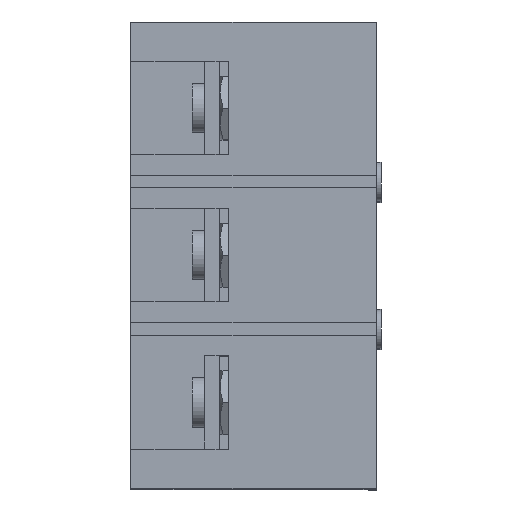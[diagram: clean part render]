
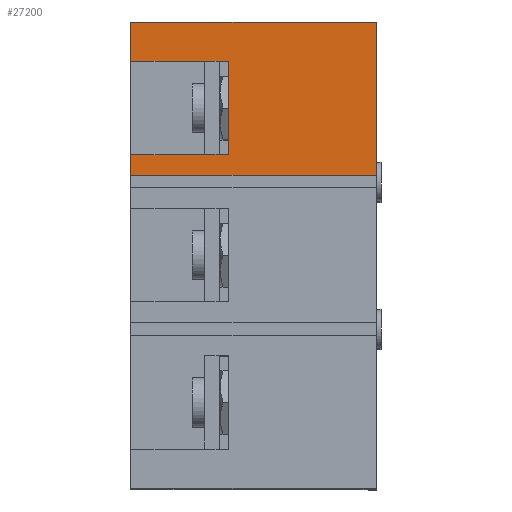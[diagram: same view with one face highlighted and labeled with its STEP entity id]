
A CAD part, top view. The second image highlights one B-rep face of the part: STEP entity #27200.
In plain terms, the highlighted planar face has unit normal (0, 0, 1) as drawn and (0, -1, 0) by its records, which use the part's own axes.
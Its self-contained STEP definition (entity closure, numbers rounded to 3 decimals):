
#92 = VECTOR ( 'NONE', #15163, 1000. ) ;
#266 = VECTOR ( 'NONE', #38924, 1000. ) ;
#995 = EDGE_CURVE ( 'NONE', #10540, #19139, #19599, .T. ) ;
#1585 = VERTEX_POINT ( 'NONE', #12079 ) ;
#2074 = ORIENTED_EDGE ( 'NONE', *, *, #2804, .F. ) ;
#2645 = LINE ( 'NONE', #22727, #17442 ) ;
#2802 = EDGE_CURVE ( 'NONE', #42319, #20415, #42419, .T. ) ;
#2804 = EDGE_CURVE ( 'NONE', #10540, #39796, #35711, .T. ) ;
#4287 = AXIS2_PLACEMENT_3D ( 'NONE', #34672, #7423, #24836 ) ;
#4922 = DIRECTION ( 'NONE',  ( -1., 0., 0. ) ) ;
#5338 = CARTESIAN_POINT ( 'NONE',  ( -39.501, -91.75, -50. ) ) ;
#5940 = DIRECTION ( 'NONE',  ( 0., 0., -1. ) ) ;
#6026 = EDGE_CURVE ( 'NONE', #18863, #42319, #32932, .T. ) ;
#6192 = VECTOR ( 'NONE', #5940, 1000. ) ;
#6803 = EDGE_CURVE ( 'NONE', #36881, #28781, #15283, .T. ) ;
#6829 = CARTESIAN_POINT ( 'NONE',  ( -20.5, -91.75, -32. ) ) ;
#6941 = CARTESIAN_POINT ( 'NONE',  ( 47.5, -91.75, -35. ) ) ;
#7423 = DIRECTION ( 'NONE',  ( 0., 1., 0. ) ) ;
#7591 = VERTEX_POINT ( 'NONE', #17221 ) ;
#7717 = EDGE_CURVE ( 'NONE', #19139, #28781, #41930, .T. ) ;
#8204 = CARTESIAN_POINT ( 'NONE',  ( -16.25, -91.75, 0. ) ) ;
#8284 = VERTEX_POINT ( 'NONE', #41153 ) ;
#8330 = DIRECTION ( 'NONE',  ( -1., 0., 0. ) ) ;
#8523 = CARTESIAN_POINT ( 'NONE',  ( -16.25, -91.75, 0. ) ) ;
#8834 = CARTESIAN_POINT ( 'NONE',  ( -39.5, -91.75, -30. ) ) ;
#9145 = VECTOR ( 'NONE', #26359, 1000. ) ;
#10148 = ORIENTED_EDGE ( 'NONE', *, *, #6803, .F. ) ;
#10274 = VECTOR ( 'NONE', #18404, 1000. ) ;
#10540 = VERTEX_POINT ( 'NONE', #32281 ) ;
#11152 = CARTESIAN_POINT ( 'NONE',  ( -16.25, -91.75, -50. ) ) ;
#11345 = CARTESIAN_POINT ( 'NONE',  ( 47.5, -91.75, -32. ) ) ;
#12046 = CARTESIAN_POINT ( 'NONE',  ( -20.5, -91.75, -30. ) ) ;
#12079 = CARTESIAN_POINT ( 'NONE',  ( -39.5, -91.75, -32. ) ) ;
#12462 = ORIENTED_EDGE ( 'NONE', *, *, #6026, .F. ) ;
#13062 = VECTOR ( 'NONE', #26456, 1000. ) ;
#13806 = CARTESIAN_POINT ( 'NONE',  ( 47.5, -91.75, -32. ) ) ;
#14529 = DIRECTION ( 'NONE',  ( 0., 0., 1. ) ) ;
#14694 = EDGE_CURVE ( 'NONE', #24754, #23552, #31574, .T. ) ;
#14794 = EDGE_CURVE ( 'NONE', #22113, #23552, #40176, .T. ) ;
#14945 = CARTESIAN_POINT ( 'NONE',  ( -39.5, -91.75, -35. ) ) ;
#15163 = DIRECTION ( 'NONE',  ( 0., 0., -1. ) ) ;
#15283 = LINE ( 'NONE', #21974, #10274 ) ;
#15552 = DIRECTION ( 'NONE',  ( 1., 0., 0. ) ) ;
#16211 = LINE ( 'NONE', #8834, #6192 ) ;
#16220 = VECTOR ( 'NONE', #27422, 1000. ) ;
#16336 = ORIENTED_EDGE ( 'NONE', *, *, #7717, .T. ) ;
#16520 = ORIENTED_EDGE ( 'NONE', *, *, #38340, .F. ) ;
#16937 = DIRECTION ( 'NONE',  ( 1., 0., 0. ) ) ;
#17093 = ORIENTED_EDGE ( 'NONE', *, *, #14794, .T. ) ;
#17221 = CARTESIAN_POINT ( 'NONE',  ( -39.501, -91.75, -32. ) ) ;
#17442 = VECTOR ( 'NONE', #29873, 1000. ) ;
#18001 = ORIENTED_EDGE ( 'NONE', *, *, #23462, .F. ) ;
#18404 = DIRECTION ( 'NONE',  ( 0., 0., 1. ) ) ;
#18770 = EDGE_CURVE ( 'NONE', #39796, #1585, #20498, .T. ) ;
#18863 = VERTEX_POINT ( 'NONE', #32300 ) ;
#19139 = VERTEX_POINT ( 'NONE', #6829 ) ;
#19599 = LINE ( 'NONE', #37225, #36265 ) ;
#20125 = EDGE_LOOP ( 'NONE', ( #16520, #42406, #31551, #12462, #18001, #28043, #33012, #26809, #41134, #2074, #32588, #16336, #10148, #42592, #17093, #32539 ) ) ;
#20415 = VERTEX_POINT ( 'NONE', #37397 ) ;
#20498 = LINE ( 'NONE', #30332, #16220 ) ;
#21863 = LINE ( 'NONE', #5338, #92 ) ;
#21874 = CARTESIAN_POINT ( 'NONE',  ( -47.5, -91.75, -50. ) ) ;
#21974 = CARTESIAN_POINT ( 'NONE',  ( -20.499, -91.75, -50. ) ) ;
#22113 = VERTEX_POINT ( 'NONE', #36693 ) ;
#22727 = CARTESIAN_POINT ( 'NONE',  ( 47.5, -91.75, -35. ) ) ;
#22994 = CARTESIAN_POINT ( 'NONE',  ( 47.5, -91.75, -50. ) ) ;
#23462 = EDGE_CURVE ( 'NONE', #29337, #18863, #16211, .T. ) ;
#23552 = VERTEX_POINT ( 'NONE', #39864 ) ;
#23736 = VECTOR ( 'NONE', #16937, 1000. ) ;
#24754 = VERTEX_POINT ( 'NONE', #11152 ) ;
#24836 = DIRECTION ( 'NONE',  ( 1., 0., 0. ) ) ;
#25308 = CARTESIAN_POINT ( 'NONE',  ( -20.5, -91.75, -30. ) ) ;
#26147 = CARTESIAN_POINT ( 'NONE',  ( -20.499, -91.75, -32. ) ) ;
#26283 = EDGE_CURVE ( 'NONE', #34905, #20415, #29482, .T. ) ;
#26359 = DIRECTION ( 'NONE',  ( -1., 0., 0. ) ) ;
#26456 = DIRECTION ( 'NONE',  ( -1., 0., 0. ) ) ;
#26809 = ORIENTED_EDGE ( 'NONE', *, *, #37351, .T. ) ;
#27200 = ADVANCED_FACE ( 'NONE', ( #27525 ), #27739, .F. ) ;
#27422 = DIRECTION ( 'NONE',  ( 0., 0., -1. ) ) ;
#27525 = FACE_OUTER_BOUND ( 'NONE', #20125, .T. ) ;
#27739 = PLANE ( 'NONE',  #4287 ) ;
#28043 = ORIENTED_EDGE ( 'NONE', *, *, #39573, .F. ) ;
#28781 = VERTEX_POINT ( 'NONE', #26147 ) ;
#28855 = DIRECTION ( 'NONE',  ( 0., 0., -1. ) ) ;
#29265 = VECTOR ( 'NONE', #4922, 1000. ) ;
#29337 = VERTEX_POINT ( 'NONE', #14945 ) ;
#29482 = LINE ( 'NONE', #43106, #9145 ) ;
#29866 = DIRECTION ( 'NONE',  ( 0., 0., -1. ) ) ;
#29873 = DIRECTION ( 'NONE',  ( 1., 0., 0. ) ) ;
#30332 = CARTESIAN_POINT ( 'NONE',  ( -39.5, -91.75, -30. ) ) ;
#30944 = VECTOR ( 'NONE', #28855, 1000. ) ;
#31551 = ORIENTED_EDGE ( 'NONE', *, *, #2802, .F. ) ;
#31574 = LINE ( 'NONE', #22994, #43758 ) ;
#31992 = LINE ( 'NONE', #8523, #30944 ) ;
#32281 = CARTESIAN_POINT ( 'NONE',  ( -20.5, -91.75, -30. ) ) ;
#32300 = CARTESIAN_POINT ( 'NONE',  ( -39.5, -91.75, -50. ) ) ;
#32495 = CARTESIAN_POINT ( 'NONE',  ( 47.5, -91.75, -50. ) ) ;
#32539 = ORIENTED_EDGE ( 'NONE', *, *, #14694, .F. ) ;
#32588 = ORIENTED_EDGE ( 'NONE', *, *, #995, .T. ) ;
#32845 = VECTOR ( 'NONE', #14529, 1000. ) ;
#32932 = LINE ( 'NONE', #32495, #13062 ) ;
#33012 = ORIENTED_EDGE ( 'NONE', *, *, #35845, .F. ) ;
#34179 = DIRECTION ( 'NONE',  ( 1., 0., 0. ) ) ;
#34672 = CARTESIAN_POINT ( 'NONE',  ( 47.5, -91.75, -50. ) ) ;
#34714 = CARTESIAN_POINT ( 'NONE',  ( -39.5, -91.75, -30. ) ) ;
#34905 = VERTEX_POINT ( 'NONE', #8204 ) ;
#35438 = CARTESIAN_POINT ( 'NONE',  ( -47.5, -91.75, -50. ) ) ;
#35711 = LINE ( 'NONE', #12046, #29265 ) ;
#35845 = EDGE_CURVE ( 'NONE', #7591, #8284, #21863, .T. ) ;
#36265 = VECTOR ( 'NONE', #29866, 1000. ) ;
#36693 = CARTESIAN_POINT ( 'NONE',  ( -20.5, -91.75, -35. ) ) ;
#36881 = VERTEX_POINT ( 'NONE', #40421 ) ;
#37071 = EDGE_CURVE ( 'NONE', #22113, #36881, #37971, .T. ) ;
#37225 = CARTESIAN_POINT ( 'NONE',  ( -20.5, -91.75, -30. ) ) ;
#37351 = EDGE_CURVE ( 'NONE', #7591, #1585, #37918, .T. ) ;
#37397 = CARTESIAN_POINT ( 'NONE',  ( -47.5, -91.75, 0. ) ) ;
#37918 = LINE ( 'NONE', #13806, #23736 ) ;
#37971 = LINE ( 'NONE', #6941, #43682 ) ;
#38340 = EDGE_CURVE ( 'NONE', #34905, #24754, #31992, .T. ) ;
#38924 = DIRECTION ( 'NONE',  ( 0., 0., -1. ) ) ;
#39573 = EDGE_CURVE ( 'NONE', #8284, #29337, #2645, .T. ) ;
#39796 = VERTEX_POINT ( 'NONE', #34714 ) ;
#39864 = CARTESIAN_POINT ( 'NONE',  ( -20.5, -91.75, -50. ) ) ;
#40176 = LINE ( 'NONE', #25308, #266 ) ;
#40421 = CARTESIAN_POINT ( 'NONE',  ( -20.499, -91.75, -35. ) ) ;
#41134 = ORIENTED_EDGE ( 'NONE', *, *, #18770, .F. ) ;
#41153 = CARTESIAN_POINT ( 'NONE',  ( -39.501, -91.75, -35. ) ) ;
#41930 = LINE ( 'NONE', #11345, #43965 ) ;
#42319 = VERTEX_POINT ( 'NONE', #35438 ) ;
#42406 = ORIENTED_EDGE ( 'NONE', *, *, #26283, .T. ) ;
#42419 = LINE ( 'NONE', #21874, #32845 ) ;
#42592 = ORIENTED_EDGE ( 'NONE', *, *, #37071, .F. ) ;
#43106 = CARTESIAN_POINT ( 'NONE',  ( 47.5, -91.75, 0. ) ) ;
#43682 = VECTOR ( 'NONE', #34179, 1000. ) ;
#43758 = VECTOR ( 'NONE', #8330, 1000. ) ;
#43965 = VECTOR ( 'NONE', #15552, 1000. ) ;
